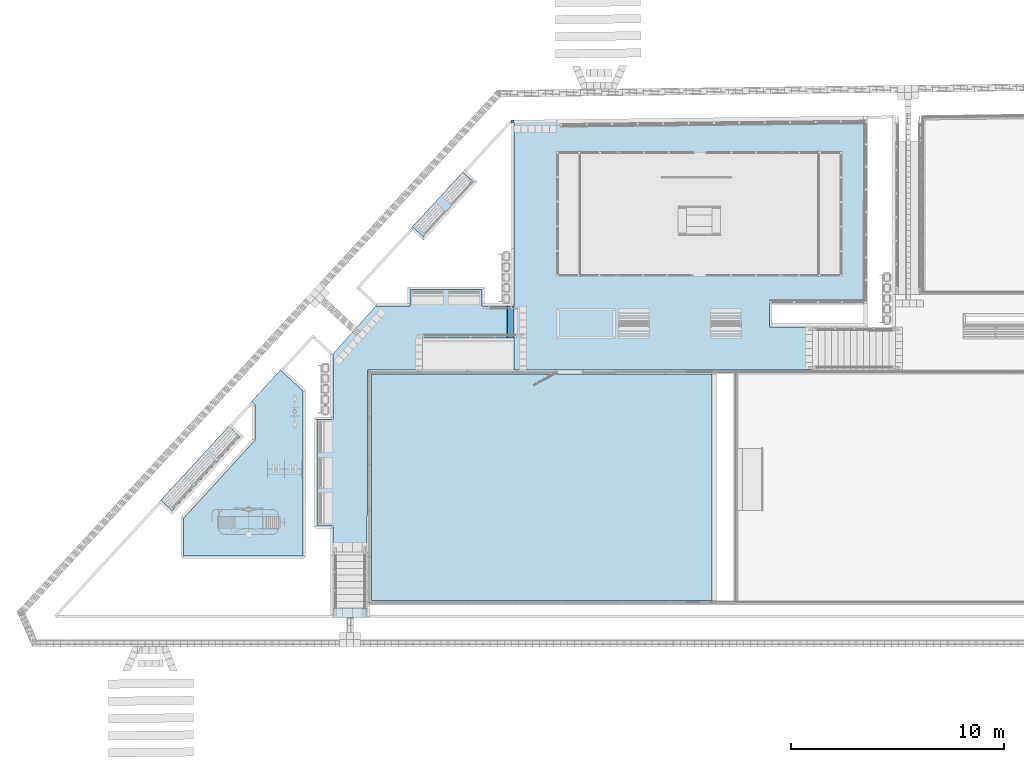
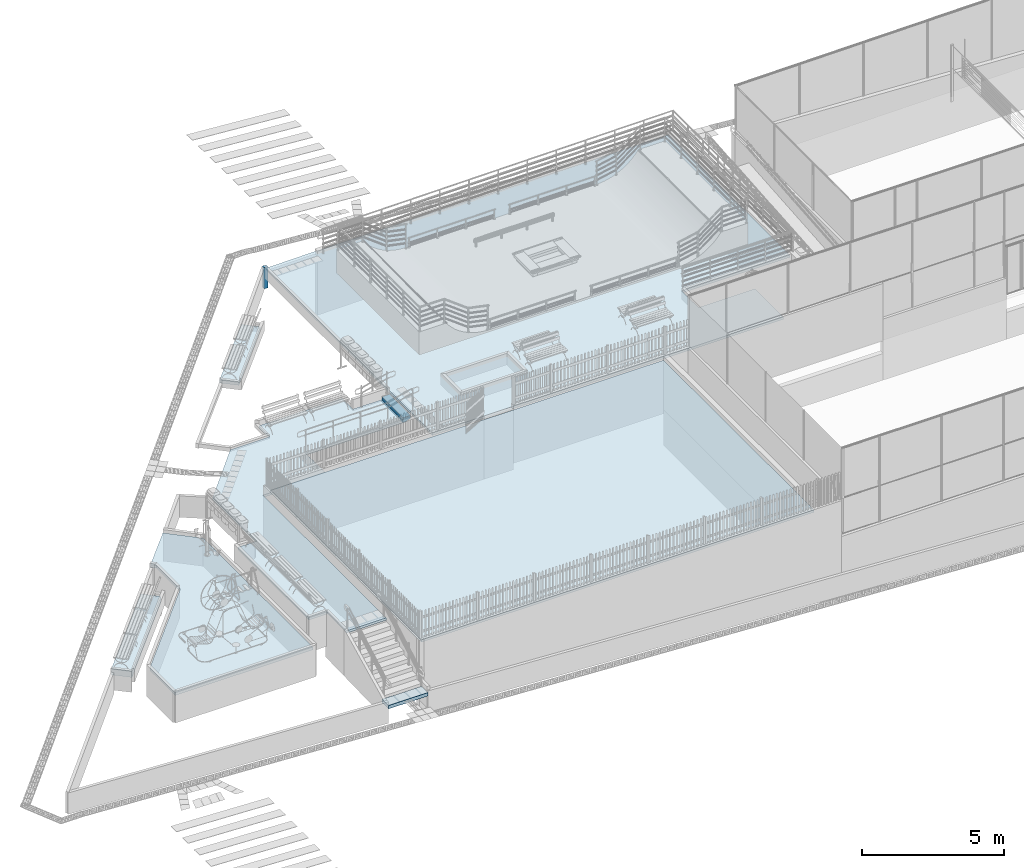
# One storey, part 13 of 237: 7 slabs, 1 beam, 1 member, 1 element without a shape of its own.
"""IFC2X3 building model written with IfcOpenShell, lengths in millimetres."""

from ifc_helpers import new_model, entity, si_unit, converted_unit, derived_unit, money_unit, direction, frame, frame_2d, origin_with_axes, place, context, subcontext, project, spatial, polyline, rectangle, outline, extrude, clip, halfspace, faceted_brep, material, layer, layer_set, layer_usage, type_object, element, aggregate, save


model = new_model("IFC2X3")

# Units and contexts
model_context = context("Model", 3, precision=0.01, world=origin_with_axes(), true_north=direction((0.0, 1.0)))
body_context = subcontext(model_context, "Body", "Model", "MODEL_VIEW")
ifc_project = project(units=[si_unit("LENGTHUNIT", "METRE", prefix="MILLI"), si_unit("AREAUNIT", "SQUARE_METRE"), si_unit("VOLUMEUNIT", "CUBIC_METRE"), converted_unit("PLANEANGLEUNIT", "DEGREE", entity("IfcPlaneAngleMeasure", 0.0174532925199), si_unit("PLANEANGLEUNIT", "RADIAN"), dimensions=[0, 0, 0, 0, 0, 0, 0]), money_unit("USD"), converted_unit("TIMEUNIT", "Year", entity("IfcTimeMeasure", 31556926.0), si_unit("TIMEUNIT", "SECOND"), dimensions=[0, 0, 1, 0, 0, 0, 0]), si_unit("MASSUNIT", "GRAM", prefix="KILO"), si_unit("THERMODYNAMICTEMPERATUREUNIT", "DEGREE_CELSIUS"), si_unit("LUMINOUSINTENSITYUNIT", "LUMEN"), si_unit("ENERGYUNIT", "JOULE", prefix="MEGA"), derived_unit("THERMALCONDUCTANCEUNIT", [(si_unit("POWERUNIT", "WATT"), 1), (si_unit("LENGTHUNIT", "METRE"), -1), (si_unit("THERMODYNAMICTEMPERATUREUNIT", "KELVIN"), -1)]), derived_unit("SPECIFICHEATCAPACITYUNIT", [(si_unit("ENERGYUNIT", "JOULE"), 1), (si_unit("MASSUNIT", "GRAM", prefix="KILO"), -1), (si_unit("THERMODYNAMICTEMPERATUREUNIT", "KELVIN"), -1)]), derived_unit("MASSDENSITYUNIT", [(si_unit("MASSUNIT", "GRAM", prefix="KILO"), 1), (si_unit("VOLUMEUNIT", "CUBIC_METRE"), -1)])], contexts=[model_context])

# Site, building, storey
site_placement = place(None, origin_with_axes())
site = spatial("IfcSite", under=ifc_project, at=site_placement, Name="Local", CompositionType="ELEMENT")
building_placement = place(site_placement, origin_with_axes())
building = spatial("IfcBuilding", under=site, at=building_placement, Name="Construção", CompositionType="ELEMENT")
storey_placement = place(building_placement, origin_with_axes())
storey = spatial("IfcBuildingStorey", under=building, at=storey_placement, Name="Pavimento Térreo", CompositionType="ELEMENT", Elevation=0.0)

# Beam
ifc_material_1 = material(Name="GENÉRICO - ESTRUTURAL")
beam_type = type_object("IfcBeamType", Name="GENÉRICO - ESTRUTURAL 120 x 919", PredefinedType="NOTDEFINED")
beam_placement = place(storey_placement, frame((48910.6181462, 35320.328075, -1212.44559131), z_axis=(0.0, 0.0, 1.0), x_axis=(0.015633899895, -0.999877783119, 0.0)))
element("IfcBeam", 1, at=beam_placement, inside=storey, type_object=beam_type, material=ifc_material_1, Name="Viga-030", context=body_context, shape_type="Clipping", body=[
    clip(clip(extrude(rectangle(XDim=919.288027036, YDim=120.0, at=frame_2d((-459.644013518, 0.0), x_axis=(1.0, 0.0))), frame((0.0, -52.050283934, 2.0855852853), z_axis=(0.0, 0.99919821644, -0.0400365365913), x_axis=(0.0, 0.0400365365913, 0.99919821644)), (0.0, 0.0, 1.0), 255.961268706), halfspace(frame((0.0, 0.0, 0.0), z_axis=(0.0, 1.0, 0.0), x_axis=(0.0, 0.0, 1.0)), True)), halfspace(frame((0.0, 151.655475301, 0.0), z_axis=(0.0, -1.0, 0.0), x_axis=(0.0, 0.0, -1.0)), True)),
])

# Stair, member
stair_placement = place(storey_placement, frame((48727.4440926, 25154.9440169, -1600.0), z_axis=(0.0, 0.0, 1.0), x_axis=(-1.0, 0.0, 0.0)))
stair = element("IfcStair", 2, at=stair_placement, inside=storey, Name="Escada - 004", ShapeType="NOTDEFINED")
ifc_material_2 = material(Name="Concreto - Estrutural")
member_type = type_object("IfcMemberType", Name="IfcMember", PredefinedType="NOTDEFINED")
member_placement = place(stair_placement, origin_with_axes())
member = element("IfcMember", 3, at=member_placement, type_object=member_type, material=ifc_material_2, Name="Lance - 005", context=body_context, shape_type="Brep", body=[
    faceted_brep([(-15.0, 0.0, 105.0), (-15.0, 0.0, -25.0), (0.0, 0.0, -25.0), (0.0, 0.0, -100.0), (-96.0756313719, 0.0, -100.0), (-320.0, 0.0, -9.03072524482), (-320.0, 0.0, 105.0), (-15.0, -1500.0, 105.0), (-15.0, -1500.0, -25.0), (0.0, -1500.0, -25.0), (0.0, -1500.0, -100.0), (-96.0756313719, -1500.0, -100.0), (-320.0, -1500.0, -9.03072524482), (-320.0, -1500.0, 105.0)], [[[0, 1, 2, 3, 4, 5, 6]], [[1, 0, 7, 8]], [[9, 2, 1, 8]], [[2, 9, 10, 3]], [[3, 10, 11, 4]], [[11, 12, 5, 4]], [[6, 5, 12, 13]], [[7, 0, 6, 13]], [[8, 7, 13, 12, 11, 10, 9]]]),
])
aggregate(stair, [member])

# Slabs
ifc_material_3 = material(Name="Concreto")
ifc_layer_1 = layer(ifc_material_3, 100.0, ventilated="UNKNOWN")
ifc_layer_set_1 = layer_set([ifc_layer_1], Name="Concreto 100")
ifc_layer_usage_1 = layer_usage(ifc_layer_set_1, "AXIS3", "NEGATIVE", 100.0)
slab_type_1 = type_object("IfcSlabType", Name="Concreto 100", PredefinedType="FLOOR")
slab_1_placement = place(storey_placement, frame((39795.337387, 21323.4138894, -1614.15280207), z_axis=(0.0, 0.0, 1.0), x_axis=(1.0, 0.0, 0.0)))
element("IfcSlab", 4, at=slab_1_placement, inside=storey, type_object=slab_type_1, material=ifc_layer_usage_1, Name="Laje-036", PredefinedType="FLOOR", context=body_context, shape_type="SweptSolid", body=[
    extrude(outline(polyline([(0.0, 0.0), (-0.232526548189, -4999.99847504), (767.109425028, -5000.00141391), (767.106705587, -6370.0002711), (2367.10670559, -6370.0002711), (2371.25983455, 2333.03777662), (4967.10670559, 2333.03774864), (4967.10670559, 3833.03774864), (8947.10670559, 3831.5301275), (8947.10670559, 5331.5301275), (7763.91086791, 5333.03774864), (7763.91093217, 6105.74006681), (4387.10667055, 6105.74006681), (4387.10667055, 5333.03784047), (2772.35763374, 5333.03784047), (767.106784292, 3101.50283484), (767.107520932, -0.00298825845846), (0.0, 0.0)])), frame((0.0, 0.0, -100.0), z_axis=(0.0, 0.0, 1.0), x_axis=(1.0, 0.0, 0.0)), (0.0, 0.0, 1.0), 100.0),
])
ifc_layer_usage_2 = layer_usage(ifc_layer_set_1, "AXIS3", "NEGATIVE", 100.0)
slab_2_placement = place(storey_placement, frame((42366.5219995, 23456.5476611, -1348.58313054), z_axis=(0.0, 0.0, 1.0), x_axis=(1.0, 0.0, 0.0)))
element("IfcSlab", 5, at=slab_2_placement, inside=storey, type_object=slab_type_1, material=ifc_layer_usage_2, Name="Laje-036", PredefinedType="FLOOR", context=body_context, shape_type="SweptSolid", body=[
    extrude(outline(polyline([(0.0, 0.0), (-4.00261196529, -10633.828004), (15999.1974826, -10633.828004), (15999.1974826, 0.0), (0.0, 0.0)])), frame((0.0, 0.0, -100.0), z_axis=(0.0, 0.0, 1.0), x_axis=(1.0, 0.0, 0.0)), (0.0, 0.0, 1.0), 100.0),
])
ifc_layer_usage_3 = layer_usage(ifc_layer_set_1, "AXIS3", "NEGATIVE", 100.0)
slab_3_placement = place(storey_placement, frame((49062.1864683, 35382.5204614, -1357.10819655), z_axis=(0.0, 0.0, 1.0), x_axis=(1.0, 0.0, 0.0)))
element("IfcSlab", 6, at=slab_3_placement, inside=storey, type_object=slab_type_1, material=ifc_layer_usage_3, Name="Laje-036", PredefinedType="FLOOR", context=body_context, shape_type="SweptSolid", body=[
    extrude(outline(polyline([(0.0, 0.0), (0.257407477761, -11726.0688234), (14300.3164283, -11724.7952309), (14300.3164283, -9724.79510808), (12000.2608332, -9725.99487626), (12000.0990063, -8539.51971993), (16404.8498989, -8537.29178854), (16400.3639686, -3.88897964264), (1998.55834758, 27.1211656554), (0.0, 0.0)])), frame((0.0, 0.0, -100.0), z_axis=(0.0, 0.0, 1.0), x_axis=(1.0, 0.0, 0.0)), (0.0, 0.0, 1.0), 100.0),
])
ifc_layer_2 = layer(ifc_material_3, 256.094601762, ventilated="UNKNOWN")
ifc_layer_set_2 = layer_set([ifc_layer_2], Name="Concreto 256.095")
ifc_layer_usage_4 = layer_usage(ifc_layer_set_2, "AXIS3", "NEGATIVE", 256.094601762)
slab_type_2 = type_object("IfcSlabType", Name="Concreto 256", PredefinedType="FLOOR")
slab_4_placement = place(storey_placement, frame((35660.8707654, 21017.1393487, -1981.61673314), z_axis=(0.0, 0.0, 1.0), x_axis=(1.0, 0.0, 0.0)))
element("IfcSlab", 7, at=slab_4_placement, inside=storey, type_object=slab_type_2, material=ifc_layer_usage_4, Name="Laje-036", PredefinedType="FLOOR", context=body_context, shape_type="SweptSolid", body=[
    extrude(outline(polyline([(0.0, 0.0), (-3204.48596922, -3480.56190789), (-2653.55762578, -3987.81144657), (542.549261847, -496.713350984), (0.0, 0.0)])), frame((0.0, 0.0, -256.094601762), z_axis=(0.0, 0.0, 1.0), x_axis=(1.0, 0.0, 0.0)), (0.0, 0.0, 1.0), 256.094601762),
])
ifc_layer_3 = layer(ifc_material_3, 128.438842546, ventilated="UNKNOWN")
ifc_layer_set_3 = layer_set([ifc_layer_3], Name="Concreto 128.439")
ifc_layer_usage_5 = layer_usage(ifc_layer_set_3, "AXIS3", "NEGATIVE", 128.438842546)
slab_type_3 = type_object("IfcSlabType", Name="Concreto 128", PredefinedType="FLOOR")
slab_5_placement = place(storey_placement, frame((46649.458593, 32952.4264997, -1463.9430068), z_axis=(0.0, 0.0, 1.0), x_axis=(1.0, 0.0, 0.0)))
element("IfcSlab", 8, at=slab_5_placement, inside=storey, type_object=slab_type_3, material=ifc_layer_usage_5, Name="Laje-036", PredefinedType="FLOOR", context=body_context, shape_type="SweptSolid", body=[
    extrude(outline(polyline([(0.0, 0.0), (-2370.4899565, -2574.7146734), (-1854.04816496, -3047.54690705), (509.008852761, -466.074673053), (0.0, 0.0)])), frame((0.0, 0.0, -128.438842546), z_axis=(0.0, 0.0, 1.0), x_axis=(1.0, 0.0, 0.0)), (0.0, 0.0, 1.0), 128.438842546),
])
ifc_layer_4 = layer(ifc_material_3, 145.029160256, ventilated="UNKNOWN")
ifc_layer_set_4 = layer_set([ifc_layer_4], Name="Concreto 145.029")
ifc_layer_usage_6 = layer_usage(ifc_layer_set_4, "AXIS3", "NEGATIVE", 145.029160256)
slab_type_4 = type_object("IfcSlabType", Name="Concreto 145", PredefinedType="FLOOR")
slab_6_placement = place(storey_placement, frame((40562.4440926, 12023.4136183, -3057.97562955), z_axis=(0.0, 0.0, 1.0), x_axis=(1.0, 0.0, 0.0)))
element("IfcSlab", 9, at=slab_6_placement, inside=storey, type_object=slab_type_4, material=ifc_layer_usage_6, Name="Laje-038", PredefinedType="FLOOR", context=body_context, shape_type="SweptSolid", body=[
    extrude(outline(polyline([(0.0, 0.0), (1600.0, 0.0), (1600.0, 450.0), (0.0, 450.0), (0.0, 0.0)])), frame((0.0, 0.0, -145.029160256), z_axis=(0.0, 0.0, 1.0), x_axis=(1.0, 0.0, 0.0)), (0.0, 0.0, 1.0), 145.029160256),
])
ifc_layer_5 = layer(ifc_material_3, 122.312797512, ventilated="UNKNOWN")
ifc_layer_set_5 = layer_set([ifc_layer_5], Name="Concreto 122.313")
ifc_layer_usage_7 = layer_usage(ifc_layer_set_5, "AXIS3", "NEGATIVE", 122.312797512)
slab_type_5 = type_object("IfcSlabType", Name="Concreto 122", PredefinedType="FLOOR")
slab_7_placement = place(storey_placement, frame((34394.9166713, 17631.2429353, -1801.6604225), z_axis=(0.0, 0.0, 1.0), x_axis=(1.0, 0.0, 0.0)))
element("IfcSlab", 10, at=slab_7_placement, inside=storey, type_object=slab_type_5, material=ifc_layer_usage_7, Name="Laje-037", PredefinedType="FLOOR", context=body_context, shape_type="SweptSolid", body=[
    extrude(outline(polyline([(-850.043257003, -929.726397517), (-850.12597177, -2707.54184203), (4759.87402118, -2707.80285329), (4760.23390988, 5027.40229364), (3688.814144, 6018.11125562), (2332.82190137, 4544.67803595), (2495.37402102, 4395.01944619), (2497.48857435, 2731.60340482), (2457.067871, 2680.77653202), (-850.043257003, -929.726397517)])), frame((0.0, 0.0, -122.312797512), z_axis=(0.0, 0.0, 1.0), x_axis=(1.0, 0.0, 0.0)), (0.0, 0.0, 1.0), 122.312797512),
])

save(model, "model.ifc")
